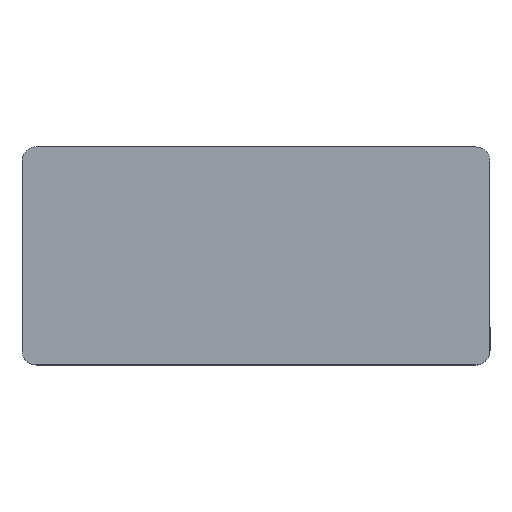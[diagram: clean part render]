
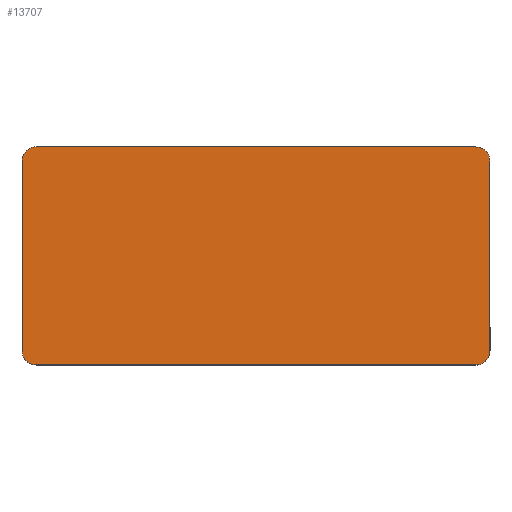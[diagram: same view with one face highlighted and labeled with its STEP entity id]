
A CAD part, top view. The second image highlights one B-rep face of the part: STEP entity #13707.
In plain terms, the highlighted free-form (B-spline) face has degree [1, 1] with [2, 2] control points.
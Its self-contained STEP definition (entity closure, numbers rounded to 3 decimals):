
#13639=CARTESIAN_POINT('',(-74.1,-144.1,0.));
#13640=CARTESIAN_POINT('',(-74.1,144.1,0.));
#13641=CARTESIAN_POINT('',(214.1,-144.1,0.));
#13642=CARTESIAN_POINT('',(214.1,144.1,0.));
#13643=B_SPLINE_SURFACE_WITH_KNOTS('',1,1,((#13639,#13640),(#13641,#13642)),.PLANE_SURF.,.F.,.F.,.U.,(2,2),(2,2),(0.,1.),(0.,1.),.UNSPECIFIED.);
#13644=CARTESIAN_POINT('',(-61.,-123.,0.));
#13645=VERTEX_POINT('',#13644);
#13646=CARTESIAN_POINT('',(-53.,-131.,0.));
#13647=VERTEX_POINT('',#13646);
#13648=CARTESIAN_POINT('',(-61.,-123.,0.));
#13649=CARTESIAN_POINT('',(-61.,-131.,0.));
#13650=CARTESIAN_POINT('',(-53.,-131.,0.));
#13651=(BOUNDED_CURVE()B_SPLINE_CURVE(2,(#13648,#13649,#13650),.CIRCULAR_ARC.,.F.,.U.)B_SPLINE_CURVE_WITH_KNOTS((3,3),(0.,1.),.UNSPECIFIED.)CURVE()GEOMETRIC_REPRESENTATION_ITEM()RATIONAL_B_SPLINE_CURVE((1.,0.707,1.))REPRESENTATION_ITEM(''));
#13652=EDGE_CURVE('',#13645,#13647,#13651,.T.);
#13653=ORIENTED_EDGE('',*,*,#13652,.T.);
#13654=CARTESIAN_POINT('',(53.,-131.,0.));
#13655=VERTEX_POINT('',#13654);
#13656=CARTESIAN_POINT('',(-53.,-131.,0.));
#13657=CARTESIAN_POINT('',(53.,-131.,0.));
#13658=B_SPLINE_CURVE_WITH_KNOTS('',1,(#13656,#13657),.POLYLINE_FORM.,.F.,.U.,(2,2),(0.066,0.934),.UNSPECIFIED.);
#13659=EDGE_CURVE('',#13647,#13655,#13658,.T.);
#13660=ORIENTED_EDGE('',*,*,#13659,.T.);
#13661=CARTESIAN_POINT('',(61.,-123.,0.));
#13662=VERTEX_POINT('',#13661);
#13663=CARTESIAN_POINT('',(53.,-131.,0.));
#13664=CARTESIAN_POINT('',(56.314,-131.,0.));
#13665=CARTESIAN_POINT('',(61.,-126.314,0.));
#13666=CARTESIAN_POINT('',(61.,-123.,0.));
#13667=(BOUNDED_CURVE()B_SPLINE_CURVE(2,(#13663,#13664,#13665,#13666),.CIRCULAR_ARC.,.F.,.U.)B_SPLINE_CURVE_WITH_KNOTS((3,1,3),(0.,0.5,1.),.UNSPECIFIED.)CURVE()GEOMETRIC_REPRESENTATION_ITEM()RATIONAL_B_SPLINE_CURVE((1.,0.854,0.854,1.))REPRESENTATION_ITEM(''));
#13668=EDGE_CURVE('',#13655,#13662,#13667,.T.);
#13669=ORIENTED_EDGE('',*,*,#13668,.T.);
#13670=CARTESIAN_POINT('',(61.,123.,0.));
#13671=VERTEX_POINT('',#13670);
#13672=CARTESIAN_POINT('',(61.,-123.,0.));
#13673=CARTESIAN_POINT('',(61.,123.,0.));
#13674=B_SPLINE_CURVE_WITH_KNOTS('',1,(#13672,#13673),.POLYLINE_FORM.,.F.,.U.,(2,2),(0.031,0.969),.UNSPECIFIED.);
#13675=EDGE_CURVE('',#13662,#13671,#13674,.T.);
#13676=ORIENTED_EDGE('',*,*,#13675,.T.);
#13677=CARTESIAN_POINT('',(53.,131.,0.));
#13678=VERTEX_POINT('',#13677);
#13679=CARTESIAN_POINT('',(61.,123.,0.));
#13680=CARTESIAN_POINT('',(61.,131.,0.));
#13681=CARTESIAN_POINT('',(53.,131.,0.));
#13682=(BOUNDED_CURVE()B_SPLINE_CURVE(2,(#13679,#13680,#13681),.CIRCULAR_ARC.,.F.,.U.)B_SPLINE_CURVE_WITH_KNOTS((3,3),(0.,1.),.UNSPECIFIED.)CURVE()GEOMETRIC_REPRESENTATION_ITEM()RATIONAL_B_SPLINE_CURVE((1.,0.707,1.))REPRESENTATION_ITEM(''));
#13683=EDGE_CURVE('',#13671,#13678,#13682,.T.);
#13684=ORIENTED_EDGE('',*,*,#13683,.T.);
#13685=CARTESIAN_POINT('',(-53.,131.,0.));
#13686=VERTEX_POINT('',#13685);
#13687=CARTESIAN_POINT('',(53.,131.,0.));
#13688=CARTESIAN_POINT('',(-53.,131.,0.));
#13689=B_SPLINE_CURVE_WITH_KNOTS('',1,(#13687,#13688),.POLYLINE_FORM.,.F.,.U.,(2,2),(0.066,0.934),.UNSPECIFIED.);
#13690=EDGE_CURVE('',#13678,#13686,#13689,.T.);
#13691=ORIENTED_EDGE('',*,*,#13690,.T.);
#13692=CARTESIAN_POINT('',(-61.,123.,0.));
#13693=VERTEX_POINT('',#13692);
#13694=CARTESIAN_POINT('',(-53.,131.,0.));
#13695=CARTESIAN_POINT('',(-61.,131.,0.));
#13696=CARTESIAN_POINT('',(-61.,123.,0.));
#13697=(BOUNDED_CURVE()B_SPLINE_CURVE(2,(#13694,#13695,#13696),.CIRCULAR_ARC.,.F.,.U.)B_SPLINE_CURVE_WITH_KNOTS((3,3),(0.,1.),.UNSPECIFIED.)CURVE()GEOMETRIC_REPRESENTATION_ITEM()RATIONAL_B_SPLINE_CURVE((1.,0.707,1.))REPRESENTATION_ITEM(''));
#13698=EDGE_CURVE('',#13686,#13693,#13697,.T.);
#13699=ORIENTED_EDGE('',*,*,#13698,.T.);
#13700=CARTESIAN_POINT('',(-61.,123.,0.));
#13701=CARTESIAN_POINT('',(-61.,-123.,0.));
#13702=B_SPLINE_CURVE_WITH_KNOTS('',1,(#13700,#13701),.POLYLINE_FORM.,.F.,.U.,(2,2),(0.031,0.969),.UNSPECIFIED.);
#13703=EDGE_CURVE('',#13693,#13645,#13702,.T.);
#13704=ORIENTED_EDGE('',*,*,#13703,.T.);
#13705=EDGE_LOOP('',(#13653,#13660,#13669,#13676,#13684,#13691,#13699,#13704));
#13706=FACE_OUTER_BOUND('',#13705,.F.);
#13707=ADVANCED_FACE('',(#13706),#13643,.F.);
